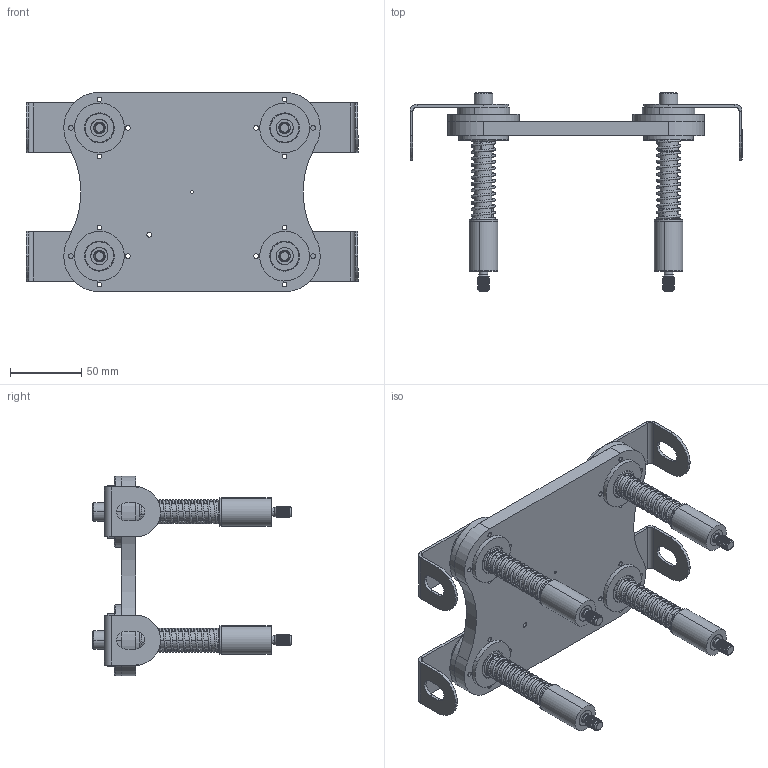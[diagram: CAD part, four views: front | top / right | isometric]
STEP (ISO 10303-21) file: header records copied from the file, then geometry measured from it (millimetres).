
FILE_DESCRIPTION (( 'STEP AP203' ), '1' );
FILE_NAME ('Floating Attachment 130x90.STEP', '2020-04-06T11:21:24', ( '' ), ( '' ), 'SwSTEP 2.0', 'SolidWorks 2019', '' );
FILE_SCHEMA (( 'CONFIG_CONTROL_DESIGN' ));
Products named in the file (1): Floating Attachment 130x90
Bounding box: 233 x 139 x 140 mm (x, y, z)
Surface area: 154213.9 mm2 (no closed solid volume)
Topology: 0 solids, 41 shells, 606 faces, 1646 edges, 1094 vertices
Faces by surface type: cylinder 286, plane 156, cone 80, bspline 44, torus 40
Entity records: 51535 total; most frequent: CARTESIAN_POINT 36439, DIRECTION 3212, ORIENTED_EDGE 2984, EDGE_CURVE 1646, AXIS2_PLACEMENT_3D 1299, VERTEX_POINT 1094, EDGE_LOOP 738, CIRCLE 736
